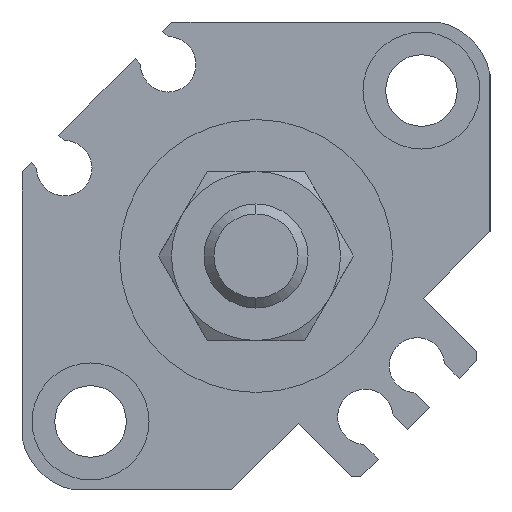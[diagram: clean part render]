
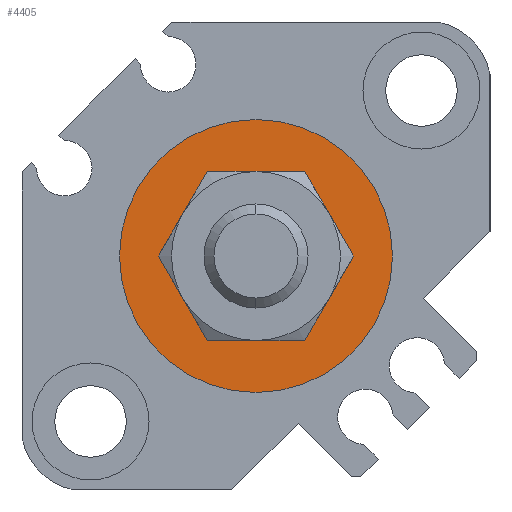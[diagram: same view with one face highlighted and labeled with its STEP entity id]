
A CAD part, left-side view. The second image highlights one B-rep face of the part: STEP entity #4405.
In plain terms, the highlighted planar face has unit normal (-1, 0, 0).
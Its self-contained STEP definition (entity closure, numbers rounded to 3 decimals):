
#167 = CARTESIAN_POINT ( 'NONE',  ( 1.6, 0., -10.5 ) ) ;
#283 = CARTESIAN_POINT ( 'NONE',  ( 1.6, 0., 6.5 ) ) ;
#455 = DIRECTION ( 'NONE',  ( 0., 0., -1. ) ) ;
#458 = CIRCLE ( 'NONE', #2383, 10.5 ) ;
#798 = EDGE_CURVE ( 'NONE', #4755, #4644, #4957, .T. ) ;
#873 = CARTESIAN_POINT ( 'NONE',  ( 1.6, 0., 0. ) ) ;
#1010 = DIRECTION ( 'NONE',  ( 0., 0., -1. ) ) ;
#1077 = FACE_OUTER_BOUND ( 'NONE', #4092, .T. ) ;
#1243 = EDGE_CURVE ( 'NONE', #3616, #2195, #4213, .T. ) ;
#1261 = AXIS2_PLACEMENT_3D ( 'NONE', #2348, #3995, #455 ) ;
#1773 = DIRECTION ( 'NONE',  ( 0., 0., -1. ) ) ;
#2110 = ORIENTED_EDGE ( 'NONE', *, *, #2724, .T. ) ;
#2138 = AXIS2_PLACEMENT_3D ( 'NONE', #873, #3799, #4180 ) ;
#2195 = VERTEX_POINT ( 'NONE', #283 ) ;
#2348 = CARTESIAN_POINT ( 'NONE',  ( 1.6, 0., 0. ) ) ;
#2383 = AXIS2_PLACEMENT_3D ( 'NONE', #5048, #4258, #1010 ) ;
#2385 = AXIS2_PLACEMENT_3D ( 'NONE', #3596, #3197, #2766 ) ;
#2560 = CARTESIAN_POINT ( 'NONE',  ( 1.6, 0., 0. ) ) ;
#2625 = AXIS2_PLACEMENT_3D ( 'NONE', #2560, #3004, #1773 ) ;
#2694 = CARTESIAN_POINT ( 'NONE',  ( 1.6, 0., -6.5 ) ) ;
#2724 = EDGE_CURVE ( 'NONE', #2195, #3616, #3329, .T. ) ;
#2766 = DIRECTION ( 'NONE',  ( 0., 1., 0. ) ) ;
#2830 = ORIENTED_EDGE ( 'NONE', *, *, #798, .F. ) ;
#3004 = DIRECTION ( 'NONE',  ( 1., 0., 0. ) ) ;
#3093 = PLANE ( 'NONE',  #2385 ) ;
#3197 = DIRECTION ( 'NONE',  ( 1., 0., 0. ) ) ;
#3329 = CIRCLE ( 'NONE', #1261, 6.5 ) ;
#3596 = CARTESIAN_POINT ( 'NONE',  ( 1.6, 0., 0. ) ) ;
#3616 = VERTEX_POINT ( 'NONE', #2694 ) ;
#3799 = DIRECTION ( 'NONE',  ( 1., 0., 0. ) ) ;
#3995 = DIRECTION ( 'NONE',  ( 1., 0., 0. ) ) ;
#3996 = FACE_BOUND ( 'NONE', #4914, .T. ) ;
#4092 = EDGE_LOOP ( 'NONE', ( #2830, #5255 ) ) ;
#4180 = DIRECTION ( 'NONE',  ( 0., 0., -1. ) ) ;
#4213 = CIRCLE ( 'NONE', #2138, 6.5 ) ;
#4258 = DIRECTION ( 'NONE',  ( 1., 0., 0. ) ) ;
#4405 = ADVANCED_FACE ( 'NONE', ( #1077, #3996 ), #3093, .F. ) ;
#4644 = VERTEX_POINT ( 'NONE', #167 ) ;
#4755 = VERTEX_POINT ( 'NONE', #5074 ) ;
#4914 = EDGE_LOOP ( 'NONE', ( #2110, #5193 ) ) ;
#4957 = CIRCLE ( 'NONE', #2625, 10.5 ) ;
#5048 = CARTESIAN_POINT ( 'NONE',  ( 1.6, 0., 0. ) ) ;
#5074 = CARTESIAN_POINT ( 'NONE',  ( 1.6, 0., 10.5 ) ) ;
#5193 = ORIENTED_EDGE ( 'NONE', *, *, #1243, .T. ) ;
#5255 = ORIENTED_EDGE ( 'NONE', *, *, #5367, .F. ) ;
#5367 = EDGE_CURVE ( 'NONE', #4644, #4755, #458, .T. ) ;
